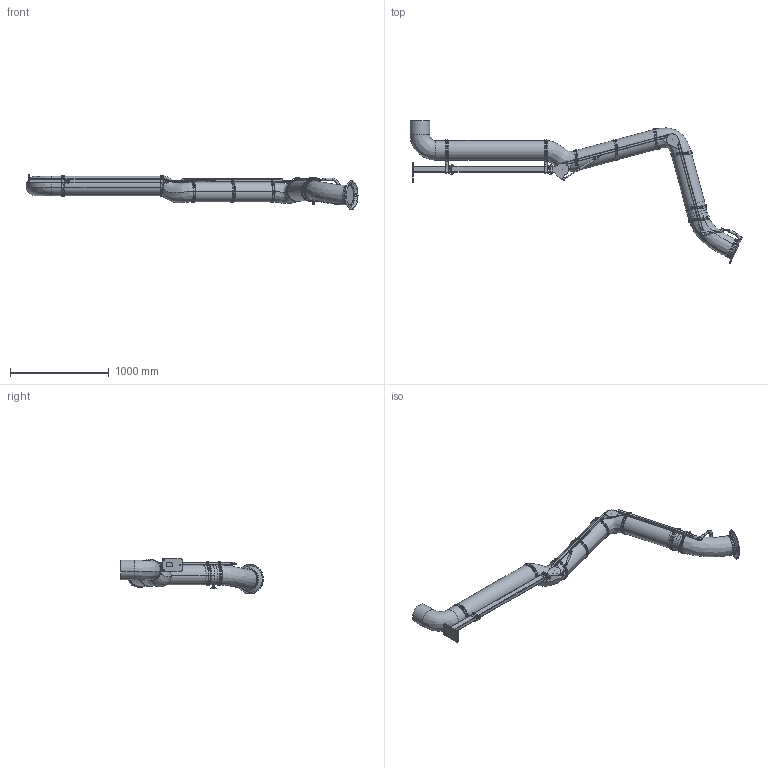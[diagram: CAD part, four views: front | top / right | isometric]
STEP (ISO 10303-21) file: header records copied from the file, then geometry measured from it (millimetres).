
FILE_DESCRIPTION((''),'2;1');
FILE_NAME('PSR_4000-200_D_EXC','2022-10-04T13:28:06',('Tomas Bellgran'),(''),'CREO PARAMETRIC BY PTC INC, 2018260','CREO PARAMETRIC BY PTC INC, 2018260','');
FILE_SCHEMA(('AUTOMOTIVE_DESIGN { 1 0 10303 214 1 1 1 1 }'));
Products named in the file (42): 141558; 141580; 141581; 122701; 141514; 141560; 141582; 141587; 141524; 121391; 131150_LIGHT; 139383_LIGHT; 131151_LIGHT; 131173_LIGHT; 144356; 141589; 134343_AF0; G_P136_WELD-REF; 141590; 120626; 122750_LIGHT; 122717_LIGHT; 120127_COMPL_LIGHT; 130317; ROD_STAB_8-160-REF; 131095; 130322_AF9; 131145; 131208; 122291; 122295; 131218; 131219; 131223; 131203; 147057_EXC; 121076; 124460; 107526-11; 121000_LIGHT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
Assembly tree (60 placements, depth 4):
  PSR_4000-200_D_EXC
    141514
      141558
      141580
      141581
      122701
    141524
      141560
      141582
      141587
    121391  x4
    131150_LIGHT
    131173_LIGHT
      139383_LIGHT
      131151_LIGHT
    144356  x2
    141590
      141589
      134343_AF0
      G_P136_WELD-REF
    120626
    122750_LIGHT
    122717_LIGHT
    120127_COMPL_LIGHT  x2
    130322_AF9
      130317
      ROD_STAB_8-160-REF
      131095  x2
    131145  x2
    131203
      131208
      122295
        122291
      131223
        131218
        131219
    147057_EXC
    121076
    124460  x6
    107526-11  x6
    121000_LIGHT  x2
    107526-20  x2
Bounding box: 3357.11 x 1443.34 x 362.95 mm (x, y, z)
Volume: 139847679.6 mm3; surface area: 4119937.2 mm2
Topology: 52 solids, 52 shells, 1369 faces, 3315 edges, 2058 vertices
Faces by surface type: plane 548, cylinder 404, bspline 290, cone 48, extrusion 36, torus 26, revolution 13, sphere 4
Entity records: 50034 total; most frequent: CARTESIAN_POINT 18762, DIRECTION 3911, ORIENTED_EDGE 3846, PRESENTATION_STYLE_ASSIGNMENT 2589, STYLED_ITEM 2566, CURVE_STYLE 1954, EDGE_CURVE 1923, AXIS2_PLACEMENT_3D 1475
